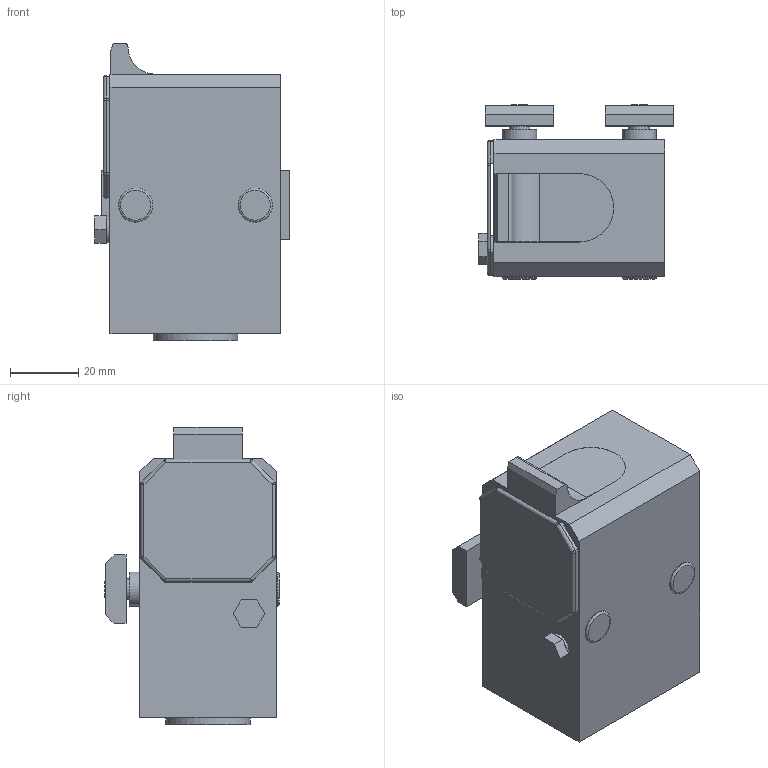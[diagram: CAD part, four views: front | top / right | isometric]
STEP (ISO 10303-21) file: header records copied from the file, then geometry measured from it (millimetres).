
FILE_DESCRIPTION(/* description */ (''),/* implementation_level */ '2;1');
FILE_NAME(/* name */ 'C:\Marketing\01_Versamove-SPU_STEP-Dateien-Homepage\Versamove plus\ASU-400_ohne_Sensor.stp',/* time_stamp */ '2016-12-22T15:13:28+01:00',/* author */ ('herbert.engels'),/* organization */ (''),/* preprocessor_version */ 'ST-DEVELOPER v15.6',/* originating_system */ 'Autodesk Inventor 2015',/* authorisation */ '');
FILE_SCHEMA (('CONFIG_CONTROL_DESIGN'));
Length unit declared in the file: millimetre
Products named in the file (1): ASU-400_ohne_Sensor
Bounding box: 57 x 51 x 87 mm (x, y, z)
Volume: 156789.1 mm3; surface area: 26283.5 mm2
Topology: 1 solids, 1 shells, 99 faces, 229 edges, 142 vertices
Faces by surface type: plane 59, cylinder 28, sphere 8, cone 2, torus 2
Full cylindrical faces by diameter (mm): 6 x2, 7.8 x1, 10 x4, 20 x1, 24.8 x1
Entity records: 2838 total; most frequent: DIRECTION 476, CARTESIAN_POINT 448, ORIENTED_EDGE 418, EDGE_CURVE 209, AXIS2_PLACEMENT_3D 167, LINE 142, VECTOR 142, VERTEX_POINT 139
